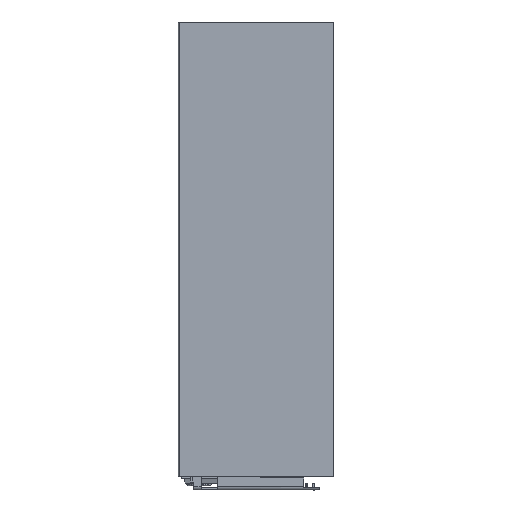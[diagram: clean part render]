
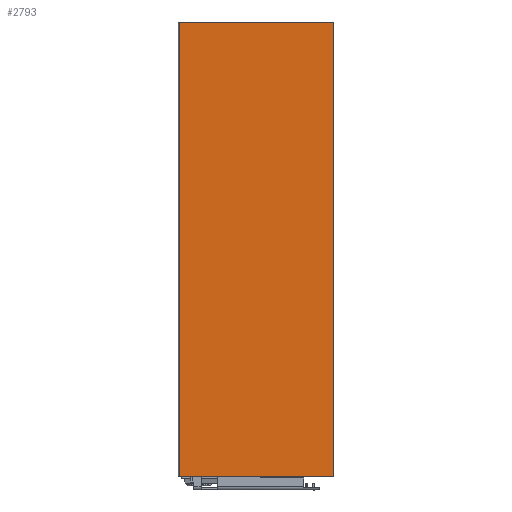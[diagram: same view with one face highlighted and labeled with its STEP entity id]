
A CAD part, left-side view. The second image highlights one B-rep face of the part: STEP entity #2793.
In plain terms, the highlighted planar face has unit normal (-1, 0, 0).
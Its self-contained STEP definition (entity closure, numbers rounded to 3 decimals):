
#368 = ORIENTED_EDGE ( 'NONE', *, *, #1932, .T. ) ;
#542 = VECTOR ( 'NONE', #1492, 1000. ) ;
#681 = PLANE ( 'NONE',  #2797 ) ;
#689 = ORIENTED_EDGE ( 'NONE', *, *, #1264, .F. ) ;
#727 = CARTESIAN_POINT ( 'NONE',  ( 2.5, 59.9, -260. ) ) ;
#834 = DIRECTION ( 'NONE',  ( 0., 0., -1. ) ) ;
#851 = DIRECTION ( 'NONE',  ( 0., 1., 0. ) ) ;
#955 = VECTOR ( 'NONE', #1533, 1000. ) ;
#1074 = LINE ( 'NONE', #1799, #2558 ) ;
#1082 = VERTEX_POINT ( 'NONE', #3054 ) ;
#1136 = CARTESIAN_POINT ( 'NONE',  ( 2.5, -29., 0. ) ) ;
#1212 = VERTEX_POINT ( 'NONE', #3095 ) ;
#1262 = CARTESIAN_POINT ( 'NONE',  ( 2.5, 59.5, 0. ) ) ;
#1264 = EDGE_CURVE ( 'NONE', #2892, #1212, #1074, .T. ) ;
#1379 = FACE_OUTER_BOUND ( 'NONE', #2764, .T. ) ;
#1492 = DIRECTION ( 'NONE',  ( 0., 0., -1. ) ) ;
#1533 = DIRECTION ( 'NONE',  ( 0., -1., 0. ) ) ;
#1605 = ORIENTED_EDGE ( 'NONE', *, *, #1742, .T. ) ;
#1621 = LINE ( 'NONE', #727, #955 ) ;
#1679 = DIRECTION ( 'NONE',  ( 1., 0., 0. ) ) ;
#1742 = EDGE_CURVE ( 'NONE', #1082, #1999, #3074, .T. ) ;
#1799 = CARTESIAN_POINT ( 'NONE',  ( 2.5, -29., 0. ) ) ;
#1888 = VECTOR ( 'NONE', #851, 1000. ) ;
#1932 = EDGE_CURVE ( 'NONE', #2892, #1082, #2389, .T. ) ;
#1999 = VERTEX_POINT ( 'NONE', #2317 ) ;
#2317 = CARTESIAN_POINT ( 'NONE',  ( 2.5, 59.5, -260. ) ) ;
#2340 = EDGE_CURVE ( 'NONE', #1999, #1212, #1621, .T. ) ;
#2389 = LINE ( 'NONE', #1136, #1888 ) ;
#2558 = VECTOR ( 'NONE', #834, 1000. ) ;
#2573 = ORIENTED_EDGE ( 'NONE', *, *, #2340, .T. ) ;
#2671 = CARTESIAN_POINT ( 'NONE',  ( 2.5, -29., 0. ) ) ;
#2701 = CARTESIAN_POINT ( 'NONE',  ( 2.5, -29., 0. ) ) ;
#2764 = EDGE_LOOP ( 'NONE', ( #689, #368, #1605, #2573 ) ) ;
#2793 = ADVANCED_FACE ( 'NONE', ( #1379 ), #681, .F. ) ;
#2797 = AXIS2_PLACEMENT_3D ( 'NONE', #2671, #1679, #3073 ) ;
#2892 = VERTEX_POINT ( 'NONE', #2701 ) ;
#3054 = CARTESIAN_POINT ( 'NONE',  ( 2.5, 59.5, 0. ) ) ;
#3073 = DIRECTION ( 'NONE',  ( 0., -1., 0. ) ) ;
#3074 = LINE ( 'NONE', #1262, #542 ) ;
#3095 = CARTESIAN_POINT ( 'NONE',  ( 2.5, -29., -260. ) ) ;
